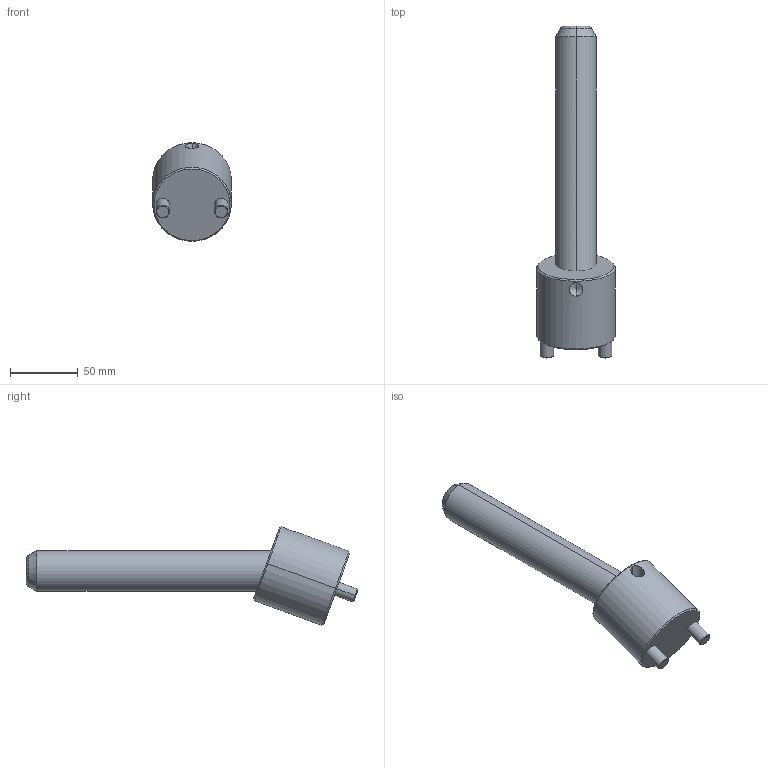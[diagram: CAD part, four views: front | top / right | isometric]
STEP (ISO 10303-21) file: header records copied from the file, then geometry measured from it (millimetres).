
FILE_DESCRIPTION(('CATIA V5 STEP Exchange'),'2;1');
FILE_NAME('C:\Users\Raffaele\Desktop\3D BOLEX\3D FILES CF BOLEX\19-INCLINED ASSEMBLY REF_CI\CI2030175.stp','2019-06-24T06:45:53+00:00',('none'),('none'),'CATIA Version 5 Release 20 GA (IN-10)','CATIA V5 STEP AP203','none');
FILE_SCHEMA(('CONFIG_CONTROL_DESIGN'));
Length unit declared in the file: millimetre
Products named in the file (1): CI2030175
Assembly tree (2 placements, depth 2):
  CI2030175
    #58
    #590
Bounding box: 58 x 244.37 x 72.63 mm (x, y, z)
Volume: 267454.9 mm3; surface area: 42524.4 mm2
Topology: 2 solids, 2 shells, 39 faces, 82 edges, 47 vertices
Faces by surface type: cone 14, cylinder 14, plane 7, torus 4
Entity records: 1560 total; most frequent: CARTESIAN_POINT 697, ORIENTED_EDGE 160, DIRECTION 147, EDGE_CURVE 80, AXIS2_PLACEMENT_3D 74, VERTEX_POINT 47, EDGE_LOOP 43, ADVANCED_FACE 39
